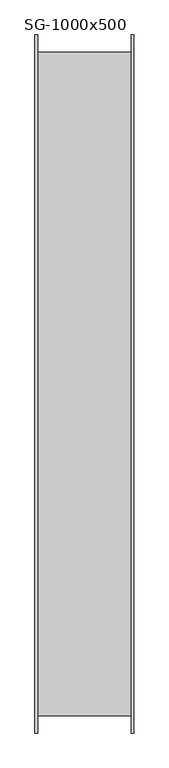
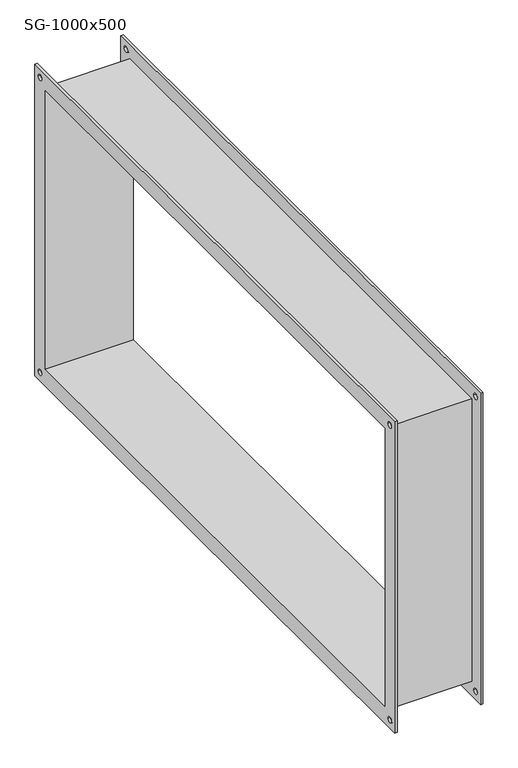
"""IFC4 building model written with IfcOpenShell, lengths in millimetres: damper geometry, СВ_ГибкаяВставка_КанальнаяПрямоугольная_200-1000_SG : SG-1000x500."""

from ifc_helpers import new_model, si_unit, frame, origin, place, context, project, spatial, polyline, circle_curve, source, transform, mapped, element, save
from ifc_brep_helpers import plane_surface, revolved_surface, advanced_brep


def sg_1000x500_4b4f1b7d(model_context):
    return source(origin(), model_context, "Body", "AdvancedBrep", [
        advanced_brep(
        [(71.0, -504.0, 254.0), (-71.0, -504.0, 254.0), (-71.0, -504.0, -254.0), (71.0, -504.0, -254.0), (-71.0, 504.0, -254.0), (71.0, 504.0, -254.0), (-71.0, 504.0, 254.0), (71.0, 504.0, 254.0), (-75.0, -530.0, 280.0), (-75.0, 530.0, 280.0), (-75.0, 530.0, -280.0), (-75.0, -530.0, -280.0), (-75.0, -500.0, 250.0), (-75.0, -500.0, -250.0), (-75.0, 500.0, -250.0), (-75.0, 500.0, 250.0), (-75.0, 510.0, 265.0), (-75.0, 520.0, 265.0), (-75.0, 510.0, -265.0), (-75.0, 520.0, -265.0), (-75.0, -520.0, 265.0), (-75.0, -510.0, 265.0), (-75.0, -520.0, -265.0), (-75.0, -510.0, -265.0), (-71.0, -530.0, 280.0), (-71.0, -530.0, -280.0), (-71.0, 530.0, -280.0), (-71.0, 530.0, 280.0), (-71.0, 520.0, 265.0), (-71.0, 510.0, 265.0), (-71.0, 520.0, -265.0), (-71.0, 510.0, -265.0), (-71.0, -510.0, 265.0), (-71.0, -520.0, 265.0), (-71.0, -510.0, -265.0), (-71.0, -520.0, -265.0), (71.0, 530.0, 280.0), (71.0, 530.0, -280.0), (71.0, -530.0, -280.0), (71.0, -530.0, 280.0), (71.0, 510.0, 265.0), (71.0, 520.0, 265.0), (71.0, 510.0, -265.0), (71.0, 520.0, -265.0), (71.0, -520.0, 265.0), (71.0, -510.0, 265.0), (71.0, -520.0, -265.0), (71.0, -510.0, -265.0), (75.0, 530.0, 280.0), (75.0, -530.0, 280.0), (75.0, -530.0, -280.0), (75.0, 530.0, -280.0), (75.0, 500.0, 250.0), (75.0, 500.0, -250.0), (75.0, -500.0, -250.0), (75.0, -500.0, 250.0), (75.0, 520.0, 265.0), (75.0, 510.0, 265.0), (75.0, 520.0, -265.0), (75.0, 510.0, -265.0), (75.0, -510.0, 265.0), (75.0, -520.0, 265.0), (75.0, -510.0, -265.0), (75.0, -520.0, -265.0)],
        [
            (0, 1),
            (1, 2),
            (2, 3),
            (3, 0),
            (2, 4),
            (4, 5),
            (5, 3),
            (4, 6),
            (6, 7),
            (7, 5),
            (0, 7),
            (6, 1),
            (8, 9),
            (9, 10),
            (10, 11),
            (11, 8),
            (12, 13),
            (13, 14),
            (14, 15),
            (15, 12),
            (16, 17, circle_curve(frame((-75.0, 515.0, 265.0), z_axis=(1.0, 0.0, 0.0), x_axis=(0.0, 1.0, 0.0)), 5.0)),
            (17, 16, circle_curve(frame((-75.0, 515.0, 265.0), z_axis=(1.0, 0.0, 0.0), x_axis=(0.0, 1.0, 0.0)), 5.0)),
            (18, 19, circle_curve(frame((-75.0, 515.0, -265.0), z_axis=(1.0, 0.0, 0.0), x_axis=(0.0, 1.0, 0.0)), 5.0)),
            (19, 18, circle_curve(frame((-75.0, 515.0, -265.0), z_axis=(1.0, 0.0, 0.0), x_axis=(0.0, 1.0, 0.0)), 5.0)),
            (20, 21, circle_curve(frame((-75.0, -515.0, 265.0), z_axis=(1.0, 0.0, 0.0), x_axis=(0.0, 1.0, 0.0)), 5.0)),
            (21, 20, circle_curve(frame((-75.0, -515.0, 265.0), z_axis=(1.0, 0.0, 0.0), x_axis=(0.0, 1.0, 0.0)), 5.0)),
            (22, 23, circle_curve(frame((-75.0, -515.0, -265.0), z_axis=(1.0, 0.0, 0.0), x_axis=(0.0, 1.0, 0.0)), 5.0)),
            (23, 22, circle_curve(frame((-75.0, -515.0, -265.0), z_axis=(1.0, 0.0, 0.0), x_axis=(0.0, 1.0, 0.0)), 5.0)),
            (24, 25),
            (25, 26),
            (26, 27),
            (27, 24),
            (28, 29, circle_curve(frame((-71.0, 515.0, 265.0), z_axis=(-1.0, 0.0, 0.0), x_axis=(0.0, 1.0, 0.0)), 5.0)),
            (29, 28, circle_curve(frame((-71.0, 515.0, 265.0), z_axis=(-1.0, 0.0, 0.0), x_axis=(0.0, 1.0, 0.0)), 5.0)),
            (30, 31, circle_curve(frame((-71.0, 515.0, -265.0), z_axis=(-1.0, 0.0, 0.0), x_axis=(0.0, 1.0, 0.0)), 5.0)),
            (31, 30, circle_curve(frame((-71.0, 515.0, -265.0), z_axis=(-1.0, 0.0, 0.0), x_axis=(0.0, 1.0, 0.0)), 5.0)),
            (32, 33, circle_curve(frame((-71.0, -515.0, 265.0), z_axis=(-1.0, 0.0, 0.0), x_axis=(0.0, 1.0, 0.0)), 5.0)),
            (33, 32, circle_curve(frame((-71.0, -515.0, 265.0), z_axis=(-1.0, 0.0, 0.0), x_axis=(0.0, 1.0, 0.0)), 5.0)),
            (34, 35, circle_curve(frame((-71.0, -515.0, -265.0), z_axis=(-1.0, 0.0, 0.0), x_axis=(0.0, 1.0, 0.0)), 5.0)),
            (35, 34, circle_curve(frame((-71.0, -515.0, -265.0), z_axis=(-1.0, 0.0, 0.0), x_axis=(0.0, 1.0, 0.0)), 5.0)),
            (11, 25),
            (24, 8),
            (10, 26),
            (9, 27),
            (36, 37),
            (37, 38),
            (38, 39),
            (39, 36),
            (40, 41, circle_curve(frame((71.0, 515.0, 265.0), z_axis=(1.0, 0.0, 0.0), x_axis=(0.0, 1.0, 0.0)), 5.0)),
            (41, 40, circle_curve(frame((71.0, 515.0, 265.0), z_axis=(1.0, 0.0, 0.0), x_axis=(0.0, 1.0, 0.0)), 5.0)),
            (42, 43, circle_curve(frame((71.0, 515.0, -265.0), z_axis=(1.0, 0.0, 0.0), x_axis=(0.0, 1.0, 0.0)), 5.0)),
            (43, 42, circle_curve(frame((71.0, 515.0, -265.0), z_axis=(1.0, 0.0, 0.0), x_axis=(0.0, 1.0, 0.0)), 5.0)),
            (44, 45, circle_curve(frame((71.0, -515.0, 265.0), z_axis=(1.0, 0.0, 0.0), x_axis=(0.0, 1.0, 0.0)), 5.0)),
            (45, 44, circle_curve(frame((71.0, -515.0, 265.0), z_axis=(1.0, 0.0, 0.0), x_axis=(0.0, 1.0, 0.0)), 5.0)),
            (46, 47, circle_curve(frame((71.0, -515.0, -265.0), z_axis=(1.0, 0.0, 0.0), x_axis=(0.0, 1.0, 0.0)), 5.0)),
            (47, 46, circle_curve(frame((71.0, -515.0, -265.0), z_axis=(1.0, 0.0, 0.0), x_axis=(0.0, 1.0, 0.0)), 5.0)),
            (48, 49),
            (49, 50),
            (50, 51),
            (51, 48),
            (52, 53),
            (53, 54),
            (54, 55),
            (55, 52),
            (56, 57, circle_curve(frame((75.0, 515.0, 265.0), z_axis=(-1.0, 0.0, 0.0), x_axis=(0.0, 1.0, 0.0)), 5.0)),
            (57, 56, circle_curve(frame((75.0, 515.0, 265.0), z_axis=(-1.0, 0.0, 0.0), x_axis=(0.0, 1.0, 0.0)), 5.0)),
            (58, 59, circle_curve(frame((75.0, 515.0, -265.0), z_axis=(-1.0, 0.0, 0.0), x_axis=(0.0, 1.0, 0.0)), 5.0)),
            (59, 58, circle_curve(frame((75.0, 515.0, -265.0), z_axis=(-1.0, 0.0, 0.0), x_axis=(0.0, 1.0, 0.0)), 5.0)),
            (60, 61, circle_curve(frame((75.0, -515.0, 265.0), z_axis=(-1.0, 0.0, 0.0), x_axis=(0.0, 1.0, 0.0)), 5.0)),
            (61, 60, circle_curve(frame((75.0, -515.0, 265.0), z_axis=(-1.0, 0.0, 0.0), x_axis=(0.0, 1.0, 0.0)), 5.0)),
            (62, 63, circle_curve(frame((75.0, -515.0, -265.0), z_axis=(-1.0, 0.0, 0.0), x_axis=(0.0, 1.0, 0.0)), 5.0)),
            (63, 62, circle_curve(frame((75.0, -515.0, -265.0), z_axis=(-1.0, 0.0, 0.0), x_axis=(0.0, 1.0, 0.0)), 5.0)),
            (39, 49),
            (48, 36),
            (38, 50),
            (37, 51),
            (15, 52),
            (55, 12),
            (14, 53),
            (13, 54),
            (16, 29),
            (28, 17),
            (40, 57),
            (56, 41),
            (18, 31),
            (30, 19),
            (42, 59),
            (58, 43),
            (20, 33),
            (32, 21),
            (44, 61),
            (60, 45),
            (22, 35),
            (34, 23),
            (46, 63),
            (62, 47),
        ],
        [
            plane_surface(frame((71.0, -504.0, 254.0), z_axis=(0.0, -1.0, 0.0), x_axis=(-1.0, 0.0, 0.0))),
            plane_surface(frame((71.0, -504.0, -254.0), z_axis=(0.0, 0.0, -1.0), x_axis=(-1.0, 0.0, 0.0))),
            plane_surface(frame((71.0, 504.0, -254.0), z_axis=(0.0, 1.0, 0.0), x_axis=(-1.0, 0.0, 0.0))),
            plane_surface(frame((71.0, 504.0, 254.0), z_axis=(0.0, 0.0, 1.0), x_axis=(-1.0, 0.0, 0.0))),
            plane_surface(frame((-75.0, -530.0, 280.0), z_axis=(-1.0, 0.0, 0.0), x_axis=(0.0, 0.0, 1.0))),
            plane_surface(frame((-71.0, -530.0, 280.0), z_axis=(1.0, 0.0, 0.0), x_axis=(0.0, 0.0, -1.0))),
            plane_surface(frame((-71.0, -530.0, 280.0), z_axis=(0.0, -1.0, 0.0), x_axis=(-1.0, 0.0, 0.0))),
            plane_surface(frame((-71.0, -530.0, -280.0), z_axis=(0.0, 0.0, -1.0), x_axis=(-1.0, 0.0, 0.0))),
            plane_surface(frame((-71.0, 530.0, -280.0), z_axis=(0.0, 1.0, 0.0), x_axis=(-1.0, 0.0, 0.0))),
            plane_surface(frame((-71.0, 530.0, 280.0), z_axis=(0.0, 0.0, 1.0), x_axis=(-1.0, 0.0, 0.0))),
            plane_surface(frame((71.0, 500.0, -250.0), z_axis=(-1.0, 0.0, 0.0), x_axis=(0.0, 0.0, 1.0))),
            plane_surface(frame((75.0, 500.0, -250.0), z_axis=(1.0, 0.0, 0.0), x_axis=(0.0, 0.0, -1.0))),
            plane_surface(frame((75.0, 530.0, 280.0), z_axis=(0.0, 0.0, 1.0), x_axis=(-1.0, 0.0, 0.0))),
            plane_surface(frame((75.0, -530.0, 280.0), z_axis=(0.0, -1.0, 0.0), x_axis=(-1.0, 0.0, 0.0))),
            plane_surface(frame((75.0, -530.0, -280.0), z_axis=(0.0, 0.0, -1.0), x_axis=(-1.0, 0.0, 0.0))),
            plane_surface(frame((75.0, 530.0, -280.0), z_axis=(0.0, 1.0, 0.0), x_axis=(-1.0, 0.0, 0.0))),
            plane_surface(frame((-71.0, -500.0, 250.0), z_axis=(0.0, 0.0, -1.0), x_axis=(-1.0, 0.0, 0.0))),
            plane_surface(frame((-71.0, 500.0, 250.0), z_axis=(0.0, -1.0, 0.0), x_axis=(-1.0, 0.0, 0.0))),
            plane_surface(frame((-71.0, 500.0, -250.0), z_axis=(0.0, 0.0, 1.0), x_axis=(-1.0, 0.0, 0.0))),
            plane_surface(frame((-71.0, -500.0, -250.0), z_axis=(0.0, 1.0, 0.0), x_axis=(-1.0, 0.0, 0.0))),
            revolved_surface(polyline([(-71.0, 520.0, 265.0), (-75.0, 520.0, 265.0)]), (-75.0, 515.0, 265.0), (1.0, 0.0, 0.0)),
            revolved_surface(polyline([(75.0, 520.0, 265.0), (71.0, 520.0, 265.0)]), (-75.0, 515.0, 265.0), (1.0, 0.0, 0.0)),
            revolved_surface(polyline([(-71.0, 520.0, -265.0), (-75.0, 520.0, -265.0)]), (0.0, 515.0, -265.0), (1.0, 0.0, 0.0)),
            revolved_surface(polyline([(75.0, 520.0, -265.0), (71.0, 520.0, -265.0)]), (0.0, 515.0, -265.0), (1.0, 0.0, 0.0)),
            revolved_surface(polyline([(-71.0, -510.0, 265.0), (-75.0, -510.0, 265.0)]), (0.0, -515.0, 265.0), (1.0, 0.0, 0.0)),
            revolved_surface(polyline([(75.0, -510.0, 265.0), (71.0, -510.0, 265.0)]), (0.0, -515.0, 265.0), (1.0, 0.0, 0.0)),
            revolved_surface(polyline([(-71.0, -510.0, -265.0), (-75.0, -510.0, -265.0)]), (0.0, -515.0, -265.0), (1.0, 0.0, 0.0)),
            revolved_surface(polyline([(75.0, -510.0, -265.0), (71.0, -510.0, -265.0)]), (0.0, -515.0, -265.0), (1.0, 0.0, 0.0)),
        ],
        [
            (0, [[1, 2, 3, 4]]),
            (1, [[-3, 5, 6, 7]]),
            (2, [[-6, 8, 9, 10]]),
            (3, [[-1, 11, -9, 12]]),
            (4, [[13, 14, 15, 16], [17, 18, 19, 20], [21, 22], [23, 24], [25, 26], [27, 28]]),
            (5, [[29, 30, 31, 32], [-2, -12, -8, -5], [33, 34], [35, 36], [37, 38], [39, 40]]),
            (6, [[-16, 41, -29, 42]]),
            (7, [[-15, 43, -30, -41]]),
            (8, [[-14, 44, -31, -43]]),
            (9, [[-13, -42, -32, -44]]),
            (10, [[45, 46, 47, 48], [-4, -7, -10, -11], [49, 50], [51, 52], [53, 54], [55, 56]]),
            (11, [[57, 58, 59, 60], [61, 62, 63, 64], [65, 66], [67, 68], [69, 70], [71, 72]]),
            (12, [[-48, 73, -57, 74]]),
            (13, [[-47, 75, -58, -73]]),
            (14, [[-46, 76, -59, -75]]),
            (15, [[-45, -74, -60, -76]]),
            (16, [[-20, 77, -64, 78]]),
            (17, [[-77, -19, 79, -61]]),
            (18, [[-79, -18, 80, -62]]),
            (19, [[-80, -17, -78, -63]]),
            (20, [[81, -33, 82, -21]]),
            (21, [[83, -65, 84, -49]]),
            (20, [[-81, -22, -82, -34]]),
            (21, [[-83, -50, -84, -66]]),
            (22, [[85, -35, 86, -23]]),
            (23, [[87, -67, 88, -51]]),
            (22, [[-85, -24, -86, -36]]),
            (23, [[-87, -52, -88, -68]]),
            (24, [[89, -37, 90, -25]]),
            (25, [[91, -69, 92, -53]]),
            (24, [[-89, -26, -90, -38]]),
            (25, [[-91, -54, -92, -70]]),
            (26, [[93, -39, 94, -27]]),
            (27, [[95, -71, 96, -55]]),
            (26, [[-93, -28, -94, -40]]),
            (27, [[-95, -56, -96, -72]]),
        ],
    ),
    ])


if __name__ == "__main__":
    model = new_model("IFC4")
    model_context = context("Model", 3, world=origin())
    ifc_project = project(units=[si_unit("LENGTHUNIT", "METRE", prefix="MILLI")], contexts=[model_context])
    site = spatial("IfcSite", under=ifc_project)
    building = spatial("IfcBuilding", under=site)
    placement = place(None, origin())
    sg_1000x500_shape = sg_1000x500_4b4f1b7d(model_context)
    element("IfcDamper", 1, ObjectType="СВ_ГибкаяВставка_КанальнаяПрямоугольная_200-1000_SG : SG-1000x500", at=placement, inside=building, context=model_context, shape_type="MappedRepresentation", body=[
        mapped(sg_1000x500_shape, transform((0.0, 0.0, 0.0), x_axis=(1.0, 0.0, 0.0), y_axis=(0.0, 1.0, 0.0), z_axis=(0.0, 0.0, 1.0))),
    ])
    save(model, "model.ifc")
